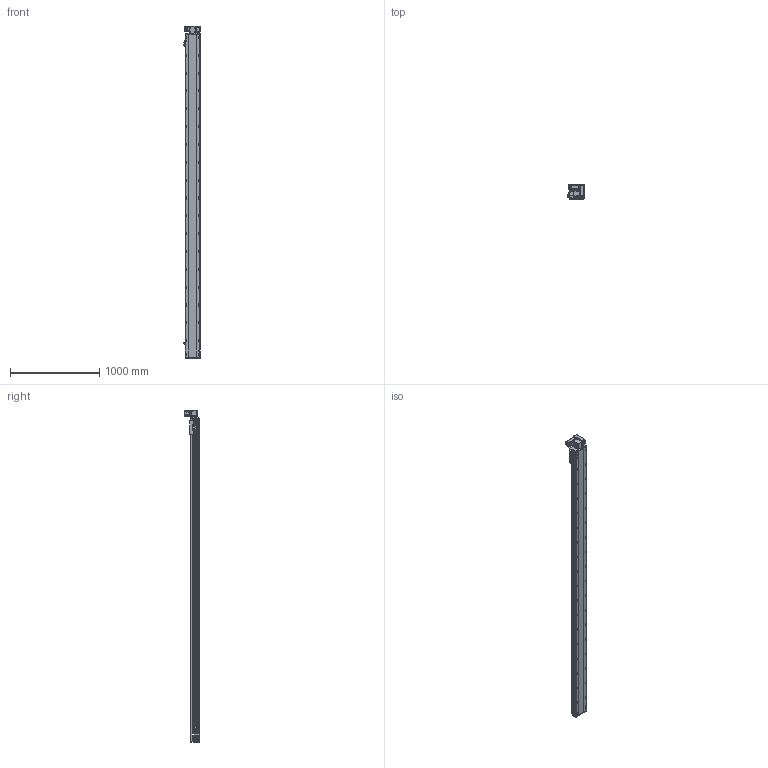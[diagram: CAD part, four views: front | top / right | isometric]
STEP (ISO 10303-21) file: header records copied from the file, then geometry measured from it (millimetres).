
FILE_DESCRIPTION (( 'STEP AP214' ), '1' );
FILE_NAME ('RTB17S-XX-3350-RW-M40-C4.STEP', '2025-12-11T09:19:47', ( '' ), ( '' ), 'SwSTEP 2.0', 'SolidWorks 2018', '' );
FILE_SCHEMA (( 'AUTOMOTIVE_DESIGN' ));
Length unit declared in the file: millimetre
Products named in the file (14): RTH13-BL-012覜茼え俋离^RTB17S-XX-XX-RW-M40-C4; 400W侜督萇儂^RTB17S-XX-XX-RW-M40-C4; RTB14-L-008-M20--萇儂啣^RTB17S-RW-々湍釱蚾饜-400W_RTB17S-XX-XX-RW-M40-C4; RTB14-L-005P--轴承塑胶压盖^RTB17S-RW-皮带座装配-400W_RTB17S-XX-XX-RW-M40-C4; RTB17S-L-004佪裝蹟譫蟀諉釱^RTB17S-XX-XX-RW-M40-C4; RTB17-R-011菁釱^RTB17S-XX-XX-RW-M40-C4; RTB14-L-017P^RTB17S-RW-々湍釱蚾饜-400W_RTB17S-XX-XX-RW-M40-C4; RTB17S-XX-3350-RW-M40-C4; RTB14-L-018P^RTB17S-RW-々湍釱蚾饜-400W_RTB17S-XX-XX-RW-M40-C4; RTB17S-L-007奻裔^RTB17S-XX-XX-RW-M40-C4; RTB17S-RW-々湍釱蚾饜-400W^RTB17S-XX-XX-RW-M40-C4; RTB17S-L-001耜醱啣^RTB17S-XX-XX-RW-M40-C4; OMRON EE-SX672 传感器^RTB17S-XX-XX-RW-M40-C4; RMP17S-L-014-T20--々湍釱^RTB17S-RW-々湍釱蚾饜-400W_RTB17S-XX-XX-RW-M40-C4
Assembly tree (16 placements, depth 3):
  RTB17S-XX-3350-RW-M40-C4
    RTB17-R-011菁釱^RTB17S-XX-XX-RW-M40-C4
    RTB17S-L-007奻裔^RTB17S-XX-XX-RW-M40-C4
    OMRON EE-SX672 传感器^RTB17S-XX-XX-RW-M40-C4  x3
    RTB17S-L-001耜醱啣^RTB17S-XX-XX-RW-M40-C4
    400W侜督萇儂^RTB17S-XX-XX-RW-M40-C4
    RTB17S-L-004佪裝蹟譫蟀諉釱^RTB17S-XX-XX-RW-M40-C4
    RTH13-BL-012覜茼え俋离^RTB17S-XX-XX-RW-M40-C4
    RTB17S-RW-々湍釱蚾饜-400W^RTB17S-XX-XX-RW-M40-C4
      RMP17S-L-014-T20--々湍釱^RTB17S-RW-々湍釱蚾饜-400W_RTB17S-XX-XX-RW-M40-C4
      RTB14-L-005P--轴承塑胶压盖^RTB17S-RW-皮带座装配-400W_RTB17S-XX-XX-RW-M40-C4
      RTB14-L-008-M20--萇儂啣^RTB17S-RW-々湍釱蚾饜-400W_RTB17S-XX-XX-RW-M40-C4
      RTB14-L-017P^RTB17S-RW-々湍釱蚾饜-400W_RTB17S-XX-XX-RW-M40-C4  x2
      RTB14-L-018P^RTB17S-RW-々湍釱蚾饜-400W_RTB17S-XX-XX-RW-M40-C4
Bounding box: 183.5 x 160.5 x 3722.5 mm (x, y, z)
Volume: 31538391.4 mm3; surface area: 3587899.6 mm2
Topology: 15 solids, 15 shells, 2397 faces, 6735 edges, 4401 vertices
Faces by surface type: plane 1092, cylinder 857, bspline 301, cone 139, torus 8
Entity records: 71849 total; most frequent: CARTESIAN_POINT 20540, ORIENTED_EDGE 10314, DIRECTION 9476, EDGE_CURVE 5157, VERTEX_POINT 3389, AXIS2_PLACEMENT_3D 3319, LINE 2838, VECTOR 2838
